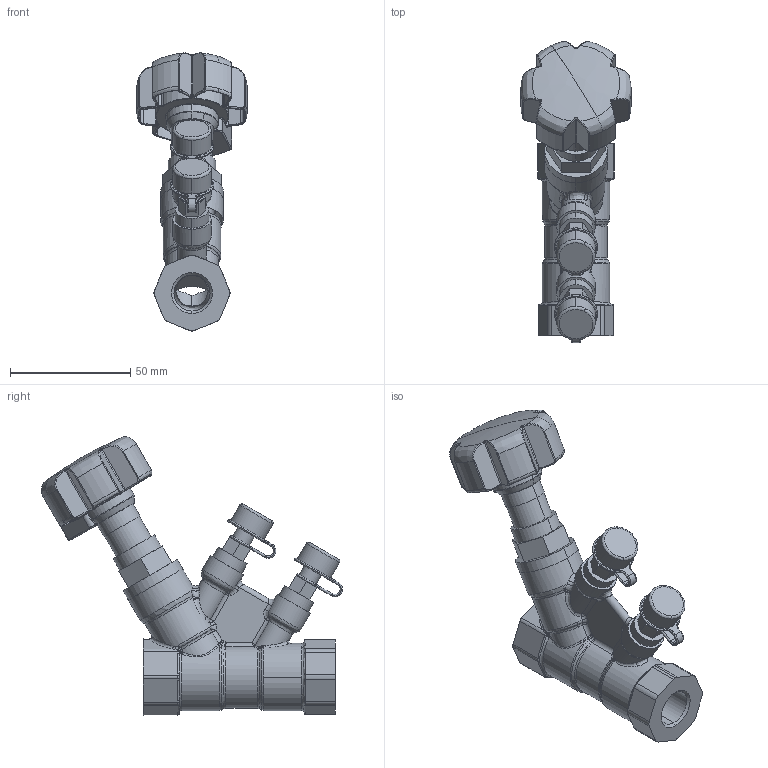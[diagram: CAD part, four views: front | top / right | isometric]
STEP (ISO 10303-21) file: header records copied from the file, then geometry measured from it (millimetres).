
FILE_DESCRIPTION (( 'STEP AP203' ), '1' );
FILE_NAME ('0.STEP', '2017-04-04T05:27:50', ( 'User' ), ( 'shendu' ), 'SwSTEP 2.0', 'SolidWorks 2015', '' );
FILE_SCHEMA (( 'CONFIG_CONTROL_DESIGN' ));
Length unit declared in the file: millimetre
Products named in the file (1): 0
Bounding box: 45.9 x 125.15 x 115.67 mm (x, y, z)
Volume: 93427.7 mm3; surface area: 37532.5 mm2
Topology: 7 solids, 7 shells, 813 faces, 1976 edges, 1141 vertices
Faces by surface type: bspline 402, cylinder 260, plane 126, cone 25
Entity records: 41076 total; most frequent: CARTESIAN_POINT 25151, ORIENTED_EDGE 3860, DIRECTION 2501, EDGE_CURVE 1930, VERTEX_POINT 1141, AXIS2_PLACEMENT_3D 1008, EDGE_LOOP 839, ADVANCED_FACE 813
